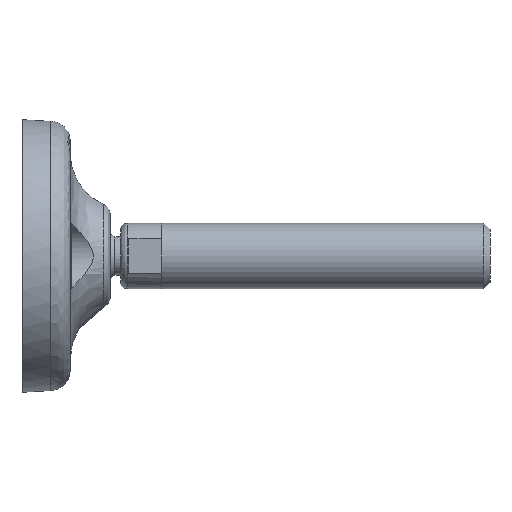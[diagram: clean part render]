
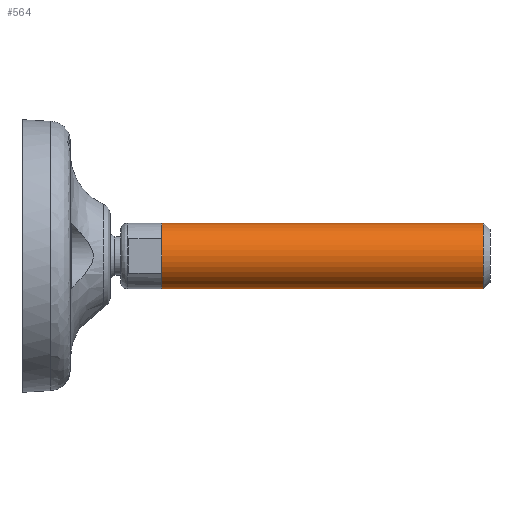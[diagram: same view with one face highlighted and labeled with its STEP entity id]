
A CAD part, front view. The second image highlights one B-rep face of the part: STEP entity #564.
In plain terms, the highlighted cylindrical face has radius 10 mm (diameter 20 mm), a full revolution.
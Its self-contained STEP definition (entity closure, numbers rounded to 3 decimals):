
#483=CARTESIAN_POINT('',(-646.178,-553.126,-19.626));
#484=VERTEX_POINT('',#483);
#485=CARTESIAN_POINT('',(-646.178,-573.126,-19.626));
#486=VERTEX_POINT('',#485);
#487=CARTESIAN_POINT('',(-646.178,-563.126,-19.626));
#488=DIRECTION('',(1.0,0.0,0.0));
#489=DIRECTION('',(0.0,-1.0,0.0));
#490=AXIS2_PLACEMENT_3D('',#487,#488,#489);
#491=CIRCLE('',#490,10.0);
#492=EDGE_CURVE('',#484,#486,#491,.T.);
#494=CARTESIAN_POINT('',(-646.178,-563.126,-19.626));
#495=DIRECTION('',(1.0,0.0,0.0));
#496=DIRECTION('',(0.0,-1.0,0.0));
#497=AXIS2_PLACEMENT_3D('',#494,#495,#496);
#498=CIRCLE('',#497,10.0);
#499=EDGE_CURVE('',#486,#484,#498,.T.);
#530=CARTESIAN_POINT('',(-646.178,-563.126,-19.626));
#531=DIRECTION('',(1.0,0.0,0.0));
#532=DIRECTION('',(0.0,-1.0,0.0));
#533=AXIS2_PLACEMENT_3D('',#530,#531,#532);
#534=CYLINDRICAL_SURFACE('',#533,10.0);
#535=ORIENTED_EDGE('',*,*,#499,.T.);
#536=ORIENTED_EDGE('',*,*,#492,.T.);
#537=CARTESIAN_POINT('',(-548.178,-573.126,-19.626));
#538=VERTEX_POINT('',#537);
#539=CARTESIAN_POINT('',(-646.178,-573.126,-19.626));
#540=DIRECTION('',(1.0,0.0,0.0));
#541=VECTOR('',#540,98.0);
#542=LINE('',#539,#541);
#543=EDGE_CURVE('',#486,#538,#542,.T.);
#544=ORIENTED_EDGE('',*,*,#543,.T.);
#545=CARTESIAN_POINT('',(-548.178,-553.126,-19.626));
#546=VERTEX_POINT('',#545);
#547=CARTESIAN_POINT('',(-548.178,-563.126,-19.626));
#548=DIRECTION('',(1.0,0.0,0.0));
#549=DIRECTION('',(0.0,-1.0,0.0));
#550=AXIS2_PLACEMENT_3D('',#547,#548,#549);
#551=CIRCLE('',#550,10.0);
#552=EDGE_CURVE('',#546,#538,#551,.T.);
#553=ORIENTED_EDGE('',*,*,#552,.F.);
#554=CARTESIAN_POINT('',(-548.178,-563.126,-19.626));
#555=DIRECTION('',(1.0,0.0,0.0));
#556=DIRECTION('',(0.0,-1.0,0.0));
#557=AXIS2_PLACEMENT_3D('',#554,#555,#556);
#558=CIRCLE('',#557,10.0);
#559=EDGE_CURVE('',#538,#546,#558,.T.);
#560=ORIENTED_EDGE('',*,*,#559,.F.);
#561=ORIENTED_EDGE('',*,*,#543,.F.);
#562=EDGE_LOOP('',(#535,#536,#544,#553,#560,#561));
#563=FACE_OUTER_BOUND('',#562,.T.);
#564=ADVANCED_FACE('',(#563),#534,.T.);
